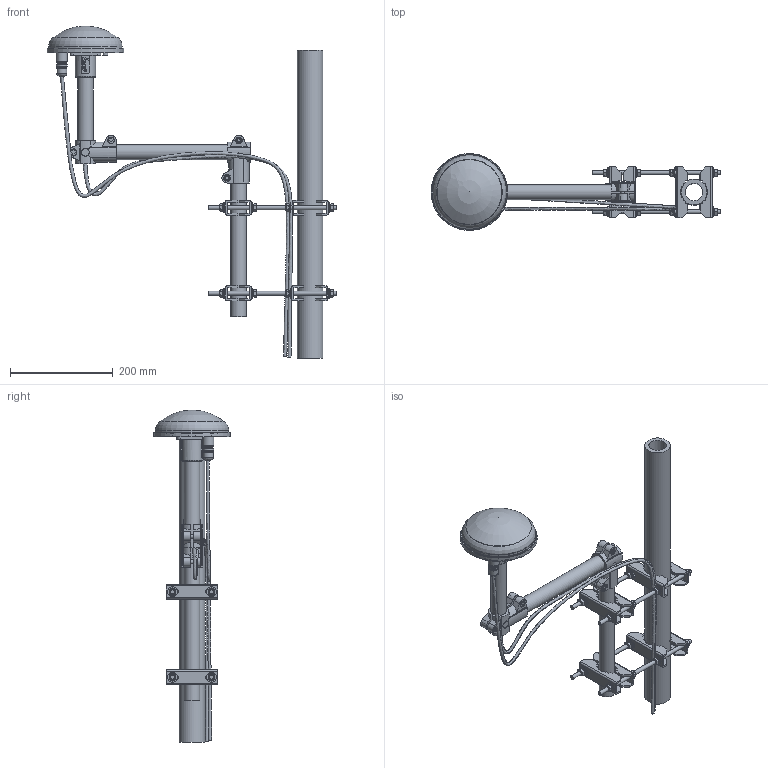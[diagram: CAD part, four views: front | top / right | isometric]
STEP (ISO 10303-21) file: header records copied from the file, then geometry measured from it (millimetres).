
FILE_DESCRIPTION(('FreeCAD Model'),'2;1');
FILE_NAME('Open CASCADE Shape Model','2022-10-12T09:01:43',(''),(''), 'Open CASCADE STEP processor 7.6','FreeCAD','Unknown');
FILE_SCHEMA(('AUTOMOTIVE_DESIGN { 1 0 10303 214 1 1 1 1 }'));
Length unit declared in the file: millimetre
Products named in the file (82): FG4490M01_Motagesatz_fertig_v0103; Body027; Body028; Body029; 113000000200#ID-Winkel_W; _ET-113000000200#ID-Winkel_W; _X094045#_28; _X094045#_029; _M8DIN985Stahl; _M8DIN985Stahl001; 113000000200#ID-Winkel_W001; _ET-113000000200#ID-Winkel_W001; _X094045#_030; _X094045#_031; _M8DIN985Stahl002; _M8DIN985Stahl003; Mastbefestigung_v01012; Body036; Body037; Part004002; MutterRE009; MutterLI009; ScheibeRE009; ScheibeLI009; Part005002; Body038; Body039; Part006002; ScheibeRE010; ScheibeLI010; MutterLI010; MutterRE010; Part007003; MutterRE011; MutterLI011; ScheibeRE011; ScheibeLI011; Part008002; Body040; Body041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
Assembly tree (81 placements, depth 4):
  FG4490M01_Motagesatz_fertig_v0103
    Body027
    Body028
    Body029
    113000000200#ID-Winkel_W
      _ET-113000000200#ID-Winkel_W
      _X094045#_28
      _X094045#_029
      _M8DIN985Stahl
      _M8DIN985Stahl001
    113000000200#ID-Winkel_W001
      _ET-113000000200#ID-Winkel_W001
      _X094045#_030
      _X094045#_031
      _M8DIN985Stahl002
      _M8DIN985Stahl003
    Mastbefestigung_v01012
      Body036
      Body037
      Part004002
        MutterRE009
        MutterLI009
        ScheibeRE009
        ScheibeLI009
      Part005002
        Body038
        Body039
      Part006002
        ScheibeRE010
        ScheibeLI010
        MutterLI010
        MutterRE010
      Part007003
        MutterRE011
        MutterLI011
        ScheibeRE011
        ScheibeLI011
      Part008002
        Body040
        Body041
      Part008003
        ScheibeLI012
        ScheibeRE012
        MutterRE012
        MutterLI012
    Mastbefestigung_v0101001
      Body042
      Body043
      Part004003
        MutterRE013
        MutterLI013
        ScheibeRE013
        ScheibeLI013
      Part005003
        Body044
        Body045
      Part006003
        ScheibeRE014
        ScheibeLI014
        MutterLI014
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Bounding box: 564.52 x 149.03 x 647 mm (x, y, z)
Volume: 1375235.6 mm3; surface area: 656676 mm2
Topology: 62 solids, 64 shells, 1356 faces, 3466 edges, 2273 vertices
Faces by surface type: plane 845, cylinder 292, cone 96, extrusion 84, torus 31, bspline 5, sphere 2, revolution 1
Full cylindrical faces by diameter (mm): 3 x4, 3.3 x1, 6 x2, 6.647 x4, 7 x8, 8 x32, 8.5 x16, 9.5 x1, 10 x1, 13 x4, 14 x1, 15 x2, 18 x1, 18.8 x16, 20 x1, 20.5 x1, 21 x1, 21.5 x1, 23.5 x1, 24 x3, 30 x3, 30.4 x1, 34 x1, 50 x1, 139.6 x1, 143.6 x1, 145 x1, 145.6 x1, 149.6 x1
Entity records: 101290 total; most frequent: CARTESIAN_POINT 30088, DIRECTION 12800, VECTOR 7511, LINE 7427, ORIENTED_EDGE 6924, PCURVE 6924, DEFINITIONAL_REPRESENTATION 6924, EDGE_CURVE 3464
